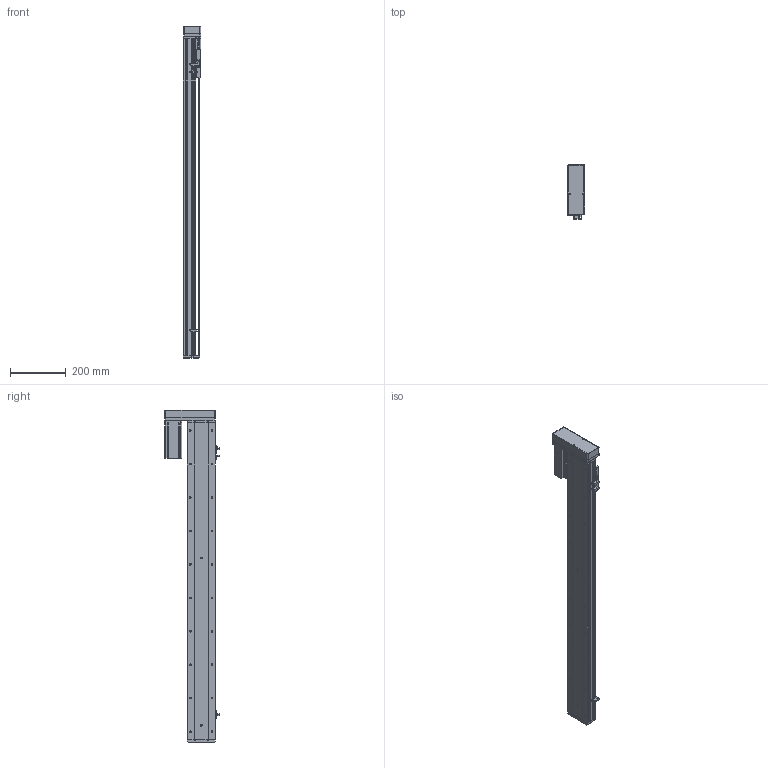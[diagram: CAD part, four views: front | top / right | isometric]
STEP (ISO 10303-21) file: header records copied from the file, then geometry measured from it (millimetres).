
FILE_DESCRIPTION (( 'STEP AP214' ), '1' );
FILE_NAME ('KSD100S-S950-ML-CM.STEP', '2019-08-30T06:37:38', ( '微软用户' ), ( '微软中国' ), 'SwSTEP 2.0', 'SolidWorks 2014', '' );
FILE_SCHEMA (( 'AUTOMOTIVE_DESIGN' ));
Length unit declared in the file: millimetre
Products named in the file (11): 悵誘欶酘衵殏; 台达ECMA－C20604AS伺服电机; 100宽马达安装板连板左右折丝杆; U倰嫖萇EEㄜSX672; 覜茼え100遵圉猾敕; 100宽防尘板丝杆950行程; 100遵鎮湛假蚾啣; 100宽滚珠螺姆安装板半封闭; 100遵傷啣; 100宽底板半封闭丝杆950行程; KSD100S-S950-ML-CM
Assembly tree (12 placements, depth 2):
  KSD100S-S950-ML-CM
    100宽底板半封闭丝杆950行程
    100遵傷啣
    100宽滚珠螺姆安装板半封闭
    100遵鎮湛假蚾啣
    100宽防尘板丝杆950行程
    覜茼え100遵圉猾敕
    U倰嫖萇EEㄜSX672  x3
    100宽马达安装板连板左右折丝杆
    台达ECMA－C20604AS伺服电机
    悵誘欶酘衵殏
Bounding box: 62 x 193.7 x 1190.5 mm (x, y, z)
Volume: 2787360.1 mm3; surface area: 914339.9 mm2
Topology: 13 solids, 13 shells, 1343 faces, 3794 edges, 2391 vertices
Faces by surface type: cylinder 672, plane 516, cone 155
Entity records: 47415 total; most frequent: CARTESIAN_POINT 9555, DIRECTION 6421, ORIENTED_EDGE 6184, EDGE_CURVE 3092, AXIS2_PLACEMENT_3D 2349, VERTEX_POINT 2015, LINE 1723, VECTOR 1723
